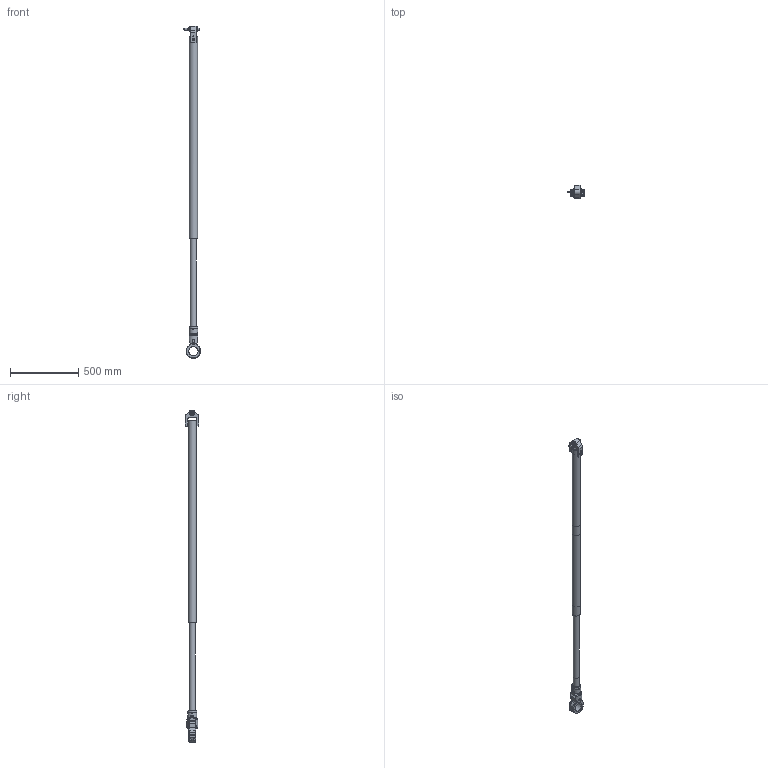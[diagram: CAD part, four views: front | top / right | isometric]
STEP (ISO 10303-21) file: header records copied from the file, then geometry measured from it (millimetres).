
FILE_DESCRIPTION(/* description */ ('Unknown'),/* implementation_level */ '2;1');
FILE_NAME(/* name */ '4-1200822_bras DMF 300_3000',/* time_stamp */ '2016-08-05T09:40:00+02:00',/* author */ ('Unknown'),/* organization */ ('Unknown'),/* preprocessor_version */ 'ST-DEVELOPER v16.7',/* originating_system */ 'DEX',/* authorisation */ $);
FILE_SCHEMA (('AUTOMOTIVE_DESIGN {1 0 10303 214 3 1 1}'));
Length unit declared in the file: millimetre
Products named in the file (20): 4-1200822_bras DMF 300_3000; Asm Chape de fixation pour DMF300 - DOGA; Pivot pour DMF300 - DOGA; Chape de fixation pour DMF300 - DOGA; CHC Epaulé M10-70; 12 Z; Bouchon pivot pour DMF300 - DOGA; H M12 Nyl; CHC M12x100; 07-46-3222 Tronçon primaire DMF300 - 3000; 07-46-3222 Tube carbone dia60 x 52 DMF300 - 3000; 07-46-3222_Bague Ø52 x Ø40 x 40 avec perçage pour DMF300; 07-46-3222_Bague Ø51.8 x Ø44 x 80 pour DMF300; Pince spéciale pour DMF300 - DOGA; 07-46-3222 Tronçon secondaire télescopique DMF300 - 3000; 07-46-3222 Jonc Ø36,8 x 150; 07-46-3222_Tube carbone Ø44.4 x Ø37 DMF300 - 3000; 07-46-3222_bague  Ø52.5 x Ø44.7 x 80 pour DMF300; 07-46-3222_Chape pince pour DMF300; axe chape DMF 300
Assembly tree (21 placements, depth 3):
  4-1200822_bras DMF 300_3000
    Asm Chape de fixation pour DMF300 - DOGA
      Pivot pour DMF300 - DOGA
      Chape de fixation pour DMF300 - DOGA
      CHC Epaulé M10-70
      12 Z  x3
      Bouchon pivot pour DMF300 - DOGA
      H M12 Nyl
      CHC M12x100
    07-46-3222 Tronçon primaire DMF300 - 3000
      07-46-3222 Tube carbone dia60 x 52 DMF300 - 3000
      07-46-3222_Bague Ø52 x Ø40 x 40 avec perçage pour DMF300
      07-46-3222_Bague Ø51.8 x Ø44 x 80 pour DMF300
    Pince spéciale pour DMF300 - DOGA
    07-46-3222 Tronçon secondaire télescopique DMF300 - 3000
      07-46-3222 Jonc Ø36,8 x 150
      07-46-3222_Tube carbone Ø44.4 x Ø37 DMF300 - 3000
      07-46-3222_bague  Ø52.5 x Ø44.7 x 80 pour DMF300
    07-46-3222_Chape pince pour DMF300
    axe chape DMF 300
Bounding box: 119 x 100 x 2438.41 mm (x, y, z)
Volume: 2860547.6 mm3; surface area: 1163909.1 mm2
Topology: 19 solids, 19 shells, 297 faces, 677 edges, 429 vertices
Faces by surface type: plane 142, cylinder 91, cone 56, torus 6, bspline 2
Full cylindrical faces by diameter (mm): 4.134 x2, 6.647 x8, 6.8 x2, 8.2 x5, 8.5 x5, 10 x1, 10.2 x1, 11.8 x1, 12 x10, 13 x2, 14 x4, 17.785 x1, 18 x2, 20 x10, 25 x3, 34 x1, 35 x1, 36.8 x1, 37 x1, 40.3 x1, 44 x1, 44.4 x2, 44.6 x1, 51.8 x1, 52 x2, 52.5 x1, 60 x1, 64 x1
Entity records: 17866 total; most frequent: CARTESIAN_POINT 11162, DIRECTION 1242, ORIENTED_EDGE 1044, EDGE_CURVE 522, AXIS2_PLACEMENT_3D 493, EDGE_LOOP 488, FACE_BOUND 488, VERTEX_POINT 384
